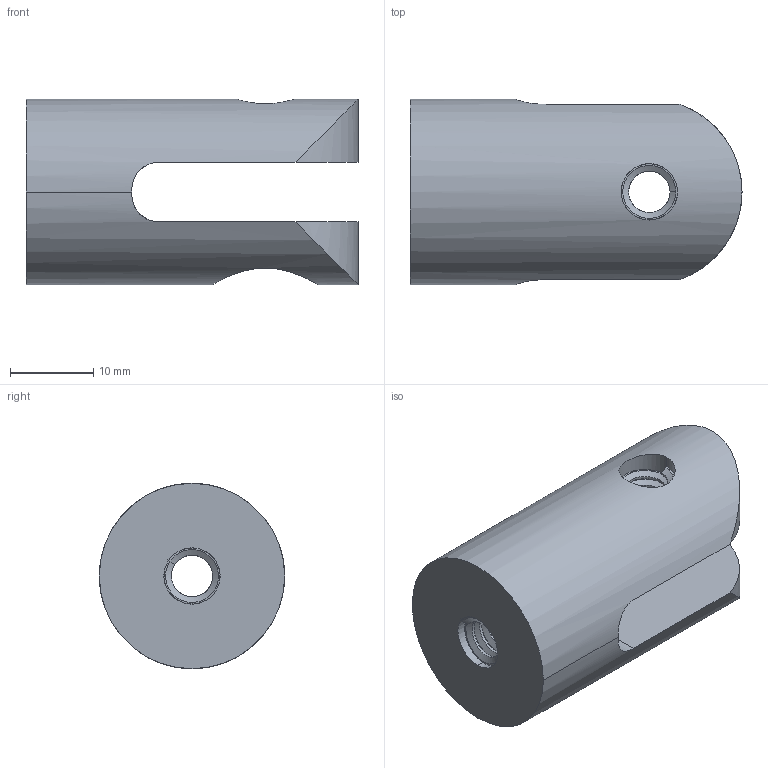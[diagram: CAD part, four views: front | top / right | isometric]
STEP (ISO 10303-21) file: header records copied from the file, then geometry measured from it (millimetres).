
FILE_DESCRIPTION (( 'STEP AP214' ), '1' );
FILE_NAME ('DRP-002-0532-00.STEP', '2013-12-20T17:36:46', ( 'ydmin' ), ( 'Microsoft' ), 'SwSTEP 2.0', 'SolidWorks 2013', '' );
FILE_SCHEMA (( 'AUTOMOTIVE_DESIGN' ));
Length unit declared in the file: inch
Products named in the file (1): DRP-002-0532-00
Bounding box: 39.81 x 22.23 x 22.23 mm (x, y, z)
Volume: 10106.4 mm3; surface area: 5167.2 mm2
Topology: 3 solids, 3 shells, 43 faces, 111 edges, 74 vertices
Faces by surface type: cylinder 17, bspline 16, plane 10
Entity records: 5166 total; most frequent: CARTESIAN_POINT 3604, ORIENTED_EDGE 222, DIRECTION 157, EDGE_CURVE 111, VERTEX_POINT 74, VECTOR 55, LINE 55, AXIS2_PLACEMENT_3D 51
